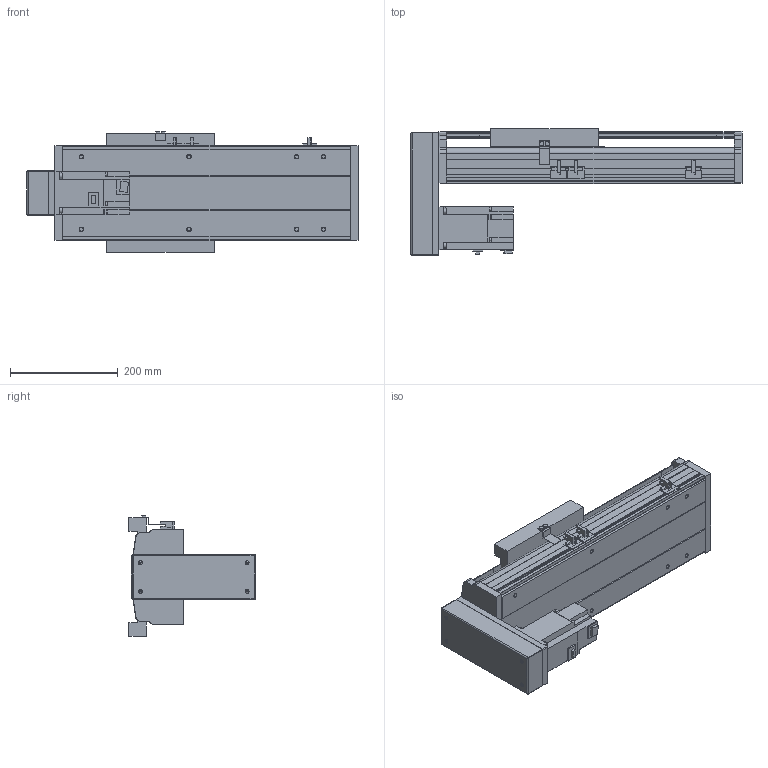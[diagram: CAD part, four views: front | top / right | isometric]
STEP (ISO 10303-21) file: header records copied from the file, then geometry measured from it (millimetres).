
FILE_DESCRIPTION( ( 'STEP AP214' ), '1' );
FILE_NAME( 'x:/temp/worker_27/temp/exporttempdir_6708_419_Ly6CU/format_0/PSS200-L10-S200-BM-T75-C1-N(0).stp', '2022-06-06T02:44:15', ( 'License CC BY-ND 4.0' ), ( 'CADENAS' ), ' ', 'PARTsolutions', ' ' );
FILE_SCHEMA( ( 'AUTOMOTIVE_DESIGN { 1 0 10303 214 1 1 1 1 }' ) );
Length unit declared in the file: millimetre
Products named in the file (8): PSS200-L10-S200-BM-T75-C1-N(0); _PSS200-S200-BM-C1-N_body; _PSS200-N_Q; _PSS200-BM-C1-N_sl; _PSS200-N_sensor; _PSS200BM-N_h; _T75-p1; _PSS200-S200-BM-N_S
Assembly tree (9 placements, depth 2):
  PSS200-L10-S200-BM-T75-C1-N(0)
    _PSS200-S200-BM-C1-N_body
    _PSS200-N_Q
    _PSS200-BM-C1-N_sl
    _PSS200-N_sensor  x3
    _PSS200BM-N_h
    _T75-p1
    _PSS200-S200-BM-N_S
Bounding box: 616.85 x 234.45 x 223.86 mm (x, y, z)
Volume: 5687862.4 mm3; surface area: 1124634.9 mm2
Topology: 9 solids, 9 shells, 590 faces, 1577 edges, 1046 vertices
Faces by surface type: plane 452, cylinder 118, cone 16, sphere 4
Full cylindrical faces by diameter (mm): 4 x2, 4.5 x4, 6 x7, 6.647 x12, 7.4 x4, 8 x8, 10 x6, 25 x1, 40 x1, 67 x1
Entity records: 20669 total; most frequent: CARTESIAN_POINT 2869, DIRECTION 2707, ORIENTED_EDGE 2698, EDGE_CURVE 1349, LINE 1071, VECTOR 1071, VERTEX_POINT 932, AXIS2_PLACEMENT_3D 818
